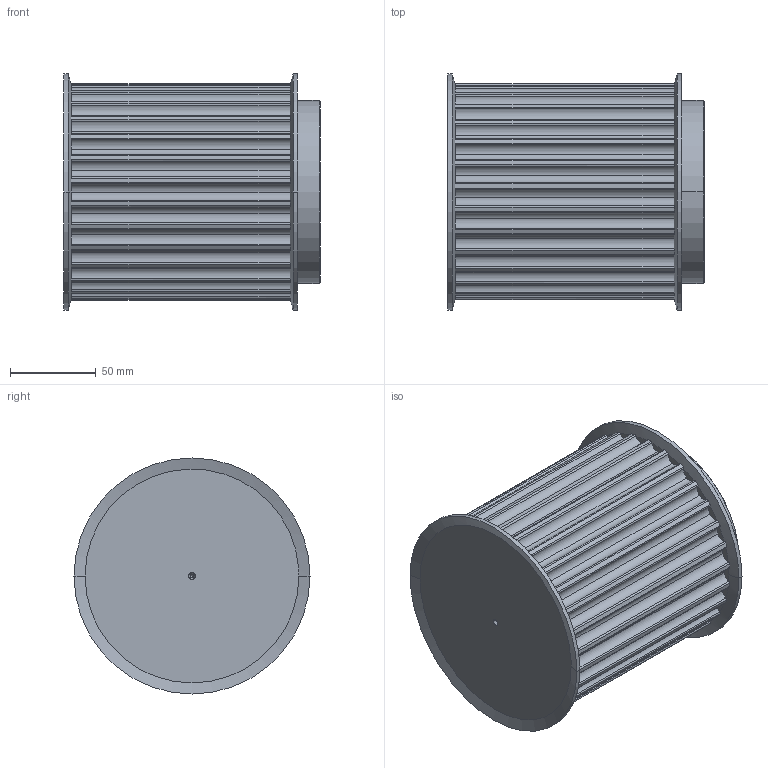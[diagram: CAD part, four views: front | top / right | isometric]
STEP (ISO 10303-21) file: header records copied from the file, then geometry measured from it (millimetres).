
FILE_DESCRIPTION(('STEP AP203'),'1');
FILE_NAME('29_-_14_m_115.stp','2020-03-10T08:26:50',('TraceParts'),('TraceParts S.A.'),'Spatial InterOp 3D',' ',' ');
FILE_SCHEMA(('CONFIG_CONTROL_DESIGN'));
Length unit declared in the file: millimetre
Products named in the file (1): 1
Bounding box: 149.74 x 138 x 138 mm (x, y, z)
Volume: 1693797.6 mm3; surface area: 109881.5 mm2
Topology: 1 solids, 1 shells, 234 faces, 679 edges, 446 vertices
Faces by surface type: cylinder 155, plane 61, cone 18
Entity records: 8745 total; most frequent: CARTESIAN_POINT 2400, DIRECTION 1415, ORIENTED_EDGE 1350, EDGE_CURVE 675, AXIS2_PLACEMENT_3D 621, VERTEX_POINT 446, CIRCLE 386, EDGE_LOOP 237
